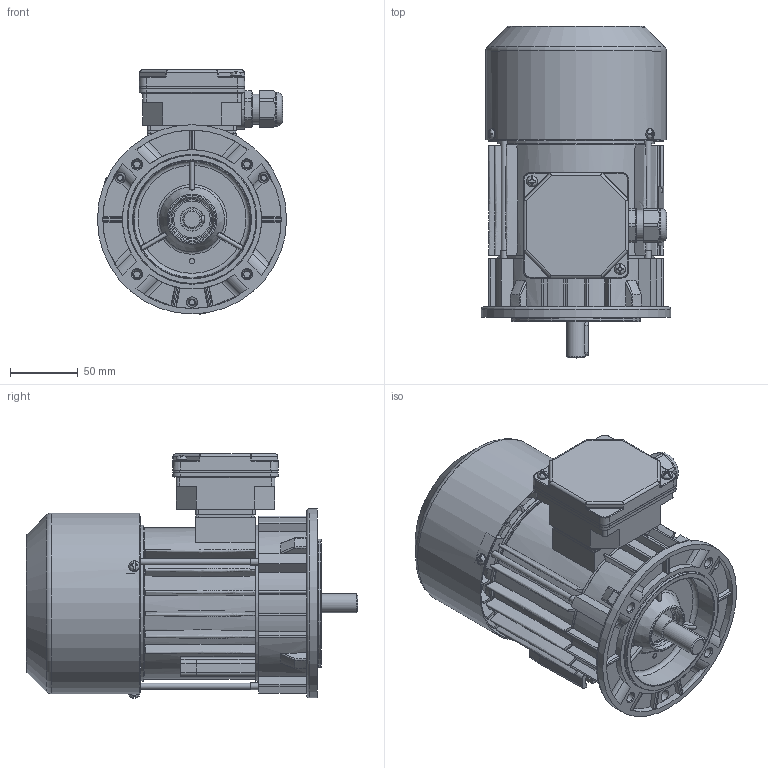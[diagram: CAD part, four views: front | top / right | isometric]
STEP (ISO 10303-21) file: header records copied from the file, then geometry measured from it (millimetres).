
FILE_DESCRIPTION( ( 'Unknown' ), '1' );
FILE_NAME( 'G:/Poczta Tk-1/STP/w.m.71/Sh71/SKh71-.B1.stp', 'Unknown', ( 'K. Szlosek' ), ( 'BESEL S.A.' ), 'PSStep 17.0.49', 'Unknown', ' ' );
FILE_SCHEMA( ( 'AUTOMOTIVE_DESIGN { 1 0 10303 214 1 1 1 1 }' ) );
Length unit declared in the file: millimetre
Products named in the file (28): Assem1; K4-2820 Uszczelka nr 2 Sh71,80; Wkręt samogwintujący M4x16; K3-6469 Tarcza łożyskowa P S(E,M)h71-B,C; Wpust A5x5x25; Wkręt samogwintujący M4x8; K1-1194 Kadłub z zamkami Sh71-.B; K3-3984 Przewietrznik Sh71; K4-2320 Uszczelka nr 1 Sh71,80; K3-2975 Osłona przewietrznika Sh71-.B,C; K2-0860 Pokrywka skrzynki zaciskowej; K3-4502 wał standard Sh71-B; Nitokołek A 2x6; Łożysko 6203; Śruba ściągająca E_M5x110; Tabliczka znamionowa 32x44; Dławnica M20x1,5; K1-1246 Tarcza kołnierzowa B14_1 w.m. 71; K2-0859 Podstawa skrzynki 6-cio zaciskowej
Assembly tree (43 placements, depth 2):
  Assem1
    K4-2820 Uszczelka nr 2 Sh71,80
    Wkręt samogwintujący M4x16  x2
    K3-6469 Tarcza łożyskowa P S(E,M)h71-B,C
    Wpust A5x5x25
    Wkręt samogwintujący M4x8  x3
    K1-1194 Kadłub z zamkami Sh71-.B
    K3-3984 Przewietrznik Sh71
    K4-2320 Uszczelka nr 1 Sh71,80
    K3-2975 Osłona przewietrznika Sh71-.B,C
    K2-0860 Pokrywka skrzynki zaciskowej
    K3-4502 wał standard Sh71-B
    Nitokołek A 2x6  x2
    Łożysko 6203  x2
    Łożysko 6203  x2
    Łożysko 6203  x2
    Łożysko 6203  x2
    Łożysko 6203  x2
    Łożysko 6203  x2
    Łożysko 6203  x2
    Łożysko 6203  x2
    Łożysko 6203  x2
    Łożysko 6203  x2
    Śruba ściągająca E_M5x110  x3
    Tabliczka znamionowa 32x44
    Dławnica M20x1,5
    K1-1246 Tarcza kołnierzowa B14_1 w.m. 71
    K2-0859 Podstawa skrzynki 6-cio zaciskowej
Bounding box: 140 x 245.5 x 180.57 mm (x, y, z)
Volume: 649952.5 mm3; surface area: 439387.7 mm2
Topology: 43 solids, 59 shells, 2467 faces, 6729 edges, 4324 vertices
Faces by surface type: plane 990, cylinder 718, bspline 345, torus 203, cone 163, sphere 48
Full cylindrical faces by diameter (mm): 2 x2, 2.4 x2, 3.7 x7, 3.8 x4, 4 x6, 4.134 x3, 4.5 x1, 4.6 x3, 4.8 x4, 5 x7, 5.5 x3, 6.8 x4, 7 x1, 8 x9, 14 x1, 15.9 x1, 16.1 x1, 16.5 x1, 17 x4, 17.4 x2, 18.376 x1, 18.38 x1, 20 x1, 22 x2, 22.3 x1, 22.5 x1, 23 x1, 23.1 x1, 24.498 x4, 25 x1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
Entity records: 144032 total; most frequent: CARTESIAN_POINT 70114, ORIENTED_EDGE 11968, DIRECTION 10657, EDGE_CURVE 5984, AXIS2_PLACEMENT_3D 4093, VERTEX_POINT 3996, EDGE_LOOP 2709, LINE 2471
